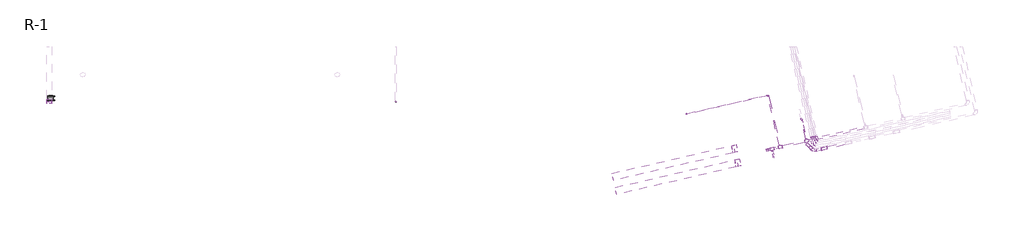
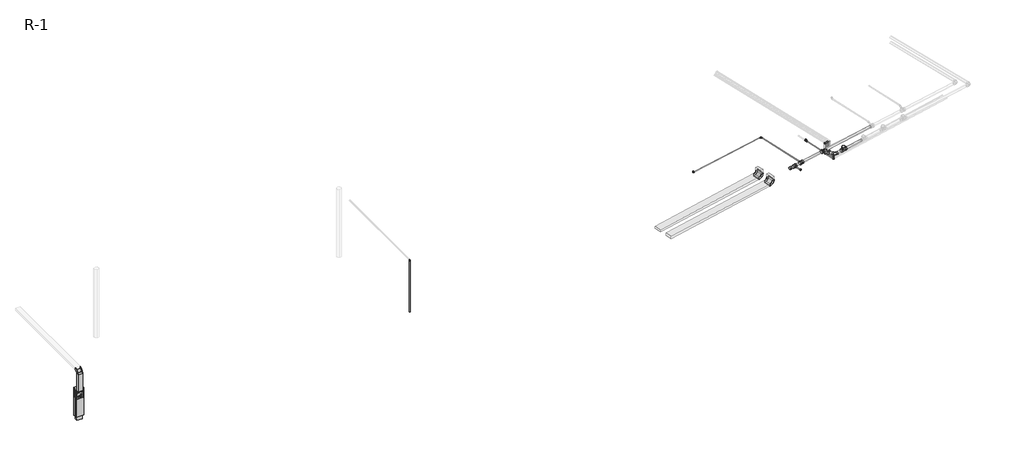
# One storey, part 1 of 4: 23 pipe fittings, 20 pipe segments, 5 cable carrier segments, 3 cable carrier fittings, 1 proxy.
"""IFC4 building model written with IfcOpenShell, lengths in millimetres."""

from ifc_helpers import new_model, si_unit, point, frame, frame_2d, origin, place, context, project, spatial, polyline, circle_curve, trimmed, segment, composite_curve, outline, extrude, transform, mapped, element, save
from components import electrical_equipment_2516d8a8, electrical_equipment_7e406d96, standaard_3adf7549, standaard_22adcec4, coude_ff_pvc_u_standard_6f87615a, coude_ff_pvc_u_standard_6033082a, coude_ff_pvc_u_standard_c64fbb7e, coude_ff_pvc_u_standard_71dba424, coude_ff_pvc_u_standard_f58f643d, standard_6e5039bf, standard_92f9c62b, standard_7b1e645a, standard_76decb9e, standard_230664cc, standard_f91cfe7f, standard_00a71b56

model = new_model("IFC4")

# Units and contexts
model_context = context("Model", 3, world=origin())
ifc_project = project(units=[si_unit("LENGTHUNIT", "METRE", prefix="MILLI")], contexts=[model_context])

# Site, building, storey
site = spatial("IfcSite", under=ifc_project)
building = spatial("IfcBuilding", under=site)
storey = spatial("IfcBuildingStorey", under=building, Name="R-1", Elevation=-2900.0)

# Proxy
placement = place(None, origin())
electrical_equipment_shape = electrical_equipment_2516d8a8(model_context)
electrical_equipment_2_shape = electrical_equipment_7e406d96(model_context)
element("IfcBuildingElementProxy", 1, Name="AI_Eqpmt elec_Borne véhicule électrique : Borne simple", ObjectType="AI_Eqpmt elec_Borne véhicule électrique : Borne simple", at=placement, inside=storey, context=model_context, shape_type="MappedRepresentation", body=[
    mapped(electrical_equipment_shape, transform((7567.2654949, -154.3953225, -2900.0), x_axis=(1.0, 0.0, 0.0), y_axis=(0.0, 1.0, 0.0), z_axis=(0.0, 0.0, 1.0))),
    mapped(electrical_equipment_2_shape, transform((7567.2654949, -154.3953225, -2900.0), x_axis=(1.0, 0.0, 0.0), y_axis=(0.0, 1.0, 0.0), z_axis=(0.0, 0.0, 1.0))),
])

# Cable carrier fittings
standaard_shape = standaard_3adf7549(model_context)
element("IfcCableCarrierFitting", 2, ObjectType="AI_Raccord cdc_Coude desencdant : standaard", at=placement, inside=storey, context=model_context, shape_type="MappedRepresentation", body=[
    mapped(standaard_shape, transform((7512.0715876, -330.5886718, -550.0), x_axis=(0.0, 0.0, 1.0), y_axis=(0.0, 1.0, 0.0), z_axis=(-1.0, 0.0, 0.0))),
])
standaard_2_shape = standaard_22adcec4(model_context)
element("IfcCableCarrierFitting", 3, ObjectType="AI_Raccord cdc_Coude montant : standaard", at=placement, inside=storey, context=model_context, shape_type="MappedRepresentation", body=[
    mapped(standaard_2_shape, transform((35910.9233173, -2805.8989841, -382.2402782), x_axis=(0.9743700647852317, 0.22495105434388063, 0.0), y_axis=(0.0, 0.0, 1.0000000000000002), z_axis=(0.22495105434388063, -0.9743700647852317, 0.0))),
])
element("IfcCableCarrierFitting", 4, ObjectType="AI_Raccord cdc_Coude montant : standaard", at=placement, inside=storey, context=model_context, shape_type="MappedRepresentation", body=[
    mapped(standaard_2_shape, transform((35777.0324498, -2225.9539216, -382.2402782), x_axis=(0.0, 0.0, -1.0), y_axis=(-0.9743700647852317, -0.22495105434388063, 0.0), z_axis=(-0.22495105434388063, 0.9743700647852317, 0.0))),
])

# Cable carrier segments
element("IfcCableCarrierSegment", 5, ObjectType="Par défaut", at=placement, inside=storey, context=model_context, shape_type="SweptSolid", body=[
    extrude(outline(polyline([(30877.9416386, -4121.7999764), (30810.4563223, -3829.488957), (35730.0507794, -2693.7110836), (35797.5360957, -2986.0221031), (30877.9416386, -4121.7999764)])), frame((0.0, 0.0, -432.2402782), z_axis=(0.0, 0.0, 1.0), x_axis=(1.0, 0.0, 0.0)), (0.0, 0.0, 1.0), 100.0),
])
element("IfcCableCarrierSegment", 6, ObjectType="Par défaut", at=placement, inside=storey, context=model_context, shape_type="SweptSolid", body=[
    extrude(outline(polyline([(35596.1599118, -2113.7660211), (35663.6452281, -2406.0770405), (30744.050771, -3541.8549139), (30676.5654547, -3249.5438944), (35596.1599118, -2113.7660211)])), frame((0.0, 0.0, -432.2402782), z_axis=(0.0, 0.0, 1.0), x_axis=(1.0, 0.0, 0.0)), (0.0, 0.0, 1.0), 100.0),
])
element("IfcCableCarrierSegment", 7, ObjectType="Par défaut", at=placement, inside=storey, context=model_context, shape_type="SweptSolid", body=[
    extrude(outline(polyline([(35993.3844787, -2940.8069411), (35895.9474722, -2963.3020466), (35828.4621559, -2670.9910271), (35925.8991624, -2648.4959217), (35993.3844787, -2940.8069411)])), frame((0.0, 0.0, -231.2402782), z_axis=(0.0, 0.0, 1.0), x_axis=(1.0, 0.0, 0.0)), (0.0, 0.0, 1.0), 141.2402782),
])
element("IfcCableCarrierSegment", 8, ObjectType="Par défaut", at=placement, inside=storey, context=model_context, shape_type="SweptSolid", body=[
    extrude(outline(polyline([(35859.4936111, -2360.8618786), (35762.0566047, -2383.356984), (35694.5712884, -2091.0459646), (35792.0082949, -2068.5508591), (35859.4936111, -2360.8618786)])), frame((0.0, 0.0, -231.2402782), z_axis=(0.0, 0.0, 1.0), x_axis=(1.0, 0.0, 0.0)), (0.0, 0.0, 1.0), 141.2402782),
])
element("IfcCableCarrierSegment", 9, ObjectType="Par défaut", at=placement, inside=storey, context=model_context, shape_type="SweptSolid", body=[
    extrude(outline(polyline([(7412.0715876, -280.5886718), (7612.0715876, -280.5886718), (7612.0715876, -380.5886718), (7412.0715876, -380.5886718), (7412.0715876, -280.5886718)])), frame((0.0, 0.0, -1482.2402782), z_axis=(0.0, 0.0, 1.0), x_axis=(1.0, 0.0, 0.0)), (0.0, 0.0, 1.0), 781.2402782),
])

# Pipe fittings
coude_ff_pvc_u_standard_shape = coude_ff_pvc_u_standard_6f87615a(model_context)
element("IfcPipeFitting", 10, ObjectType="Coude - FF - PVC-U : Standard", at=placement, inside=storey, context=model_context, shape_type="MappedRepresentation", body=[
    mapped(coude_ff_pvc_u_standard_shape, transform((38984.1269017, -2319.8384453, -483.9512557), x_axis=(0.7070272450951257, -0.70702724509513, -0.014998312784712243), y_axis=(0.7069941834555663, 0.7071705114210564, -0.008312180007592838), z_axis=(0.016483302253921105, -0.004726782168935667, 0.9998529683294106))),
])
coude_ff_pvc_u_standard_2_shape = coude_ff_pvc_u_standard_6033082a(model_context)
element("IfcPipeFitting", 11, ObjectType="Coude - FF - PVC-U : Standard", at=placement, inside=storey, context=model_context, shape_type="MappedRepresentation", body=[
    mapped(coude_ff_pvc_u_standard_2_shape, transform((38723.0979429, -2058.8094865, -478.4139953), x_axis=(0.0, 0.0, -1.0), y_axis=(0.7071067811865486, -0.7071067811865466, 0.0), z_axis=(-0.7071067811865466, -0.7071067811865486, 0.0))),
])
coude_ff_pvc_u_standard_3_shape = coude_ff_pvc_u_standard_c64fbb7e(model_context)
element("IfcPipeFitting", 12, ObjectType="Coude - FF - PVC-U : Standard", at=placement, inside=storey, context=model_context, shape_type="MappedRepresentation", body=[
    mapped(coude_ff_pvc_u_standard_3_shape, transform((37108.4442002, -29.6336291, -458.5869679), x_axis=(-0.22489611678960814, 0.9742673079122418, 0.014998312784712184), y_axis=(-0.9742167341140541, -0.22511528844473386, 0.014995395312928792), z_axis=(0.017985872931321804, -0.011239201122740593, 0.9997750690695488))),
])
coude_ff_pvc_u_standard_4_shape = coude_ff_pvc_u_standard_71dba424(model_context)
element("IfcPipeFitting", 13, ObjectType="Coude - FF - PVC-U : Standard", at=placement, inside=storey, context=model_context, shape_type="MappedRepresentation", body=[
    mapped(coude_ff_pvc_u_standard_4_shape, transform((33727.6141266, -810.1597511, -406.5405711), x_axis=(-0.9742604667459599, -0.22492575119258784, 0.014998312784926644), y_axis=(0.014613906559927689, 0.0033738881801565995, 0.999887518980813), z_axis=(-0.22495105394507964, 0.9743700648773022, -1.962298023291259e-09))),
])
coude_ff_pvc_u_standard_5_shape = coude_ff_pvc_u_standard_f58f643d(model_context)
element("IfcPipeFitting", 14, ObjectType="Coude - FF - PVC-U : Standard", at=placement, inside=storey, context=model_context, shape_type="MappedRepresentation", body=[
    mapped(coude_ff_pvc_u_standard_5_shape, transform((37345.2644101, -2596.8677366, -487.1501185), x_axis=(7.407819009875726e-05, 1.7102297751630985e-05, -0.9999999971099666), y_axis=(-0.2248110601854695, 0.9744023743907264, 1.0923084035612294e-08), z_axis=(0.9744023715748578, 0.22481105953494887, 7.602675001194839e-05))),
])
standard_shape = standard_6e5039bf(model_context)
element("IfcPipeFitting", 15, ObjectType="Coude - Générique1 : Standard", at=placement, inside=storey, context=model_context, shape_type="MappedRepresentation", body=[
    mapped(standard_shape, transform((21784.7623914, -295.1789703, -539.2767599), x_axis=(0.0, -1.0, 0.0), y_axis=(0.0, 0.0, -1.0), z_axis=(1.0, 0.0, 0.0))),
])
element("IfcPipeFitting", 16, ObjectType="Coude - Générique1 : Standard", at=placement, inside=storey, context=model_context, shape_type="MappedRepresentation", body=[
    mapped(standard_shape, transform((38972.9430808, -2220.1001443, -766.1829602), x_axis=(0.2251779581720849, -0.9743176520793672, 0.0), y_axis=(0.9743176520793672, 0.2251779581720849, 0.0), z_axis=(0.0, 0.0, 1.0))),
])
element("IfcPipeFitting", 17, ObjectType="Coude - Générique1 : Standard", at=placement, inside=storey, context=model_context, shape_type="MappedRepresentation", body=[
    mapped(standard_shape, transform((39034.0751545, -2120.7881489, -766.1829602), x_axis=(0.22502855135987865, -0.9743521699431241, 0.0), y_axis=(0.9743521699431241, 0.22502855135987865, 0.0), z_axis=(0.0, 0.0, 1.0))),
])
element("IfcPipeFitting", 18, ObjectType="Coude - Générique1 : Standard", at=placement, inside=storey, context=model_context, shape_type="MappedRepresentation", body=[
    mapped(standard_shape, transform((39092.8568962, -2027.3993233, -766.1829602), x_axis=(0.22510321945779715, -0.9743349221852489, 0.0), y_axis=(0.9743349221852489, 0.22510321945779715, 0.0), z_axis=(0.0, 0.0, 1.0))),
])
element("IfcPipeFitting", 19, ObjectType="Coude - Générique1 : Standard", at=placement, inside=storey, context=model_context, shape_type="MappedRepresentation", body=[
    mapped(standard_shape, transform((39154.396475, -1928.1997018, -766.1829602), x_axis=(0.22502855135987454, -0.974352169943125, 0.0), y_axis=(0.974352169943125, 0.22502855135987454, 0.0), z_axis=(0.0, 0.0, 1.0))),
])
element("IfcPipeFitting", 20, ObjectType="Coude - Générique1 : Standard", at=placement, inside=storey, context=model_context, shape_type="MappedRepresentation", body=[
    mapped(standard_shape, transform((38866.1068713, -1758.1096338, -766.1829602), x_axis=(-0.22495398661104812, 0.9743693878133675, 0.0), y_axis=(0.0, 0.0, 1.0), z_axis=(0.9743693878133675, 0.22495398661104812, 0.0))),
])
element("IfcPipeFitting", 21, ObjectType="Coude - Générique1 : Standard", at=placement, inside=storey, context=model_context, shape_type="MappedRepresentation", body=[
    mapped(standard_shape, transform((38866.1068713, -1758.1096338, -296.6995), x_axis=(0.0, 0.0, 1.0), y_axis=(-0.2250565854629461, 0.9743456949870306, 0.0), z_axis=(-0.9743456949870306, -0.2250565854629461, 0.0))),
])
element("IfcPipeFitting", 22, ObjectType="Coude - Générique1 : Standard", at=placement, inside=storey, context=model_context, shape_type="MappedRepresentation", body=[
    mapped(standard_shape, transform((38946.0309048, -1739.6574634, -766.1829602), x_axis=(-0.22495398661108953, 0.9743693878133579, 0.0), y_axis=(0.0, 0.0, 1.0), z_axis=(0.9743693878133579, 0.22495398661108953, 0.0))),
])
element("IfcPipeFitting", 23, ObjectType="Coude - Générique1 : Standard", at=placement, inside=storey, context=model_context, shape_type="MappedRepresentation", body=[
    mapped(standard_shape, transform((38946.0309048, -1739.6574634, -296.6995), x_axis=(0.0, 0.0, 1.0), y_axis=(-0.22494916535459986, 0.9743705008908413, 0.0), z_axis=(-0.9743705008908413, -0.22494916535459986, 0.0))),
])
element("IfcPipeFitting", 24, ObjectType="Coude - Générique1 : Standard", at=placement, inside=storey, context=model_context, shape_type="MappedRepresentation", body=[
    mapped(standard_shape, transform((39022.2694211, -1722.0561734, -766.1829602), x_axis=(-0.22495398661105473, 0.9743693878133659, 0.0), y_axis=(0.0, 0.0, 1.0), z_axis=(0.9743693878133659, 0.22495398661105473, 0.0))),
])
element("IfcPipeFitting", 25, ObjectType="Coude - Générique1 : Standard", at=placement, inside=storey, context=model_context, shape_type="MappedRepresentation", body=[
    mapped(standard_shape, transform((39022.2694211, -1722.0561734, -296.6995), x_axis=(0.0, 0.0, 1.0), y_axis=(-0.22500170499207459, 0.9743583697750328, 0.0), z_axis=(-0.9743583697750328, -0.22500170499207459, 0.0))),
])
element("IfcPipeFitting", 26, ObjectType="Coude - Générique1 : Standard", at=placement, inside=storey, context=model_context, shape_type="MappedRepresentation", body=[
    mapped(standard_shape, transform((39102.4868441, -1703.5362678, -766.1829602), x_axis=(-0.22495398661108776, 0.9743693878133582, 0.0), y_axis=(0.0, 0.0, 1.0), z_axis=(0.9743693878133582, 0.22495398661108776, 0.0))),
])
standard_2_shape = standard_92f9c62b(model_context)
element("IfcPipeFitting", 27, ObjectType="Chapeau - Générique : Standard", at=placement, inside=storey, context=model_context, shape_type="MappedRepresentation", body=[
    mapped(standard_2_shape, transform((37107.1915096, -2283.5088708, -483.9028289), x_axis=(-0.9742927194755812, -0.22478600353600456, 0.014998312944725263), y_axis=(0.2248112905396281, -0.9744023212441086, 0.0), z_axis=(0.014614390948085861, 0.003371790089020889, 0.999887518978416))),
])
standard_3_shape = standard_7b1e645a(model_context)
element("IfcPipeFitting", 28, ObjectType="EG-RCAN Té sanitaire de réduction - PVC - Nom. 40 - DWV : Standard", at=placement, inside=storey, context=model_context, shape_type="MappedRepresentation", body=[
    mapped(standard_3_shape, transform((37602.3467709, -2169.2576247, -491.5253101), x_axis=(-0.9742598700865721, -0.2249283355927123, 0.014998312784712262), y_axis=(0.22470917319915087, -0.9743104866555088, -0.014995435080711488), z_axis=(0.017985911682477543, -0.01123919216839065, 0.9997750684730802))),
])
standard_4_shape = standard_76decb9e(model_context)
element("IfcPipeFitting", 29, ObjectType="EG-RCAN Té sanitaire de réduction - PVC - Nom. 40 - DWV : Standard", at=placement, inside=storey, context=model_context, shape_type="MappedRepresentation", body=[
    mapped(standard_4_shape, transform((37264.5889981, -2247.1945766, -486.3258141), x_axis=(-0.9742927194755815, -0.22478600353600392, 0.01499831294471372), y_axis=(-0.2247647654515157, 0.9744080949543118, 0.0031088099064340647), z_axis=(-0.01531329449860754, -0.00034220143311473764, -0.9998826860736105))),
])
standard_5_shape = standard_230664cc(model_context)
element("IfcPipeFitting", 30, ObjectType="EG-RCAN Té sanitaire de réduction - PVC - Nom. 40 - DWV : Standard", at=placement, inside=storey, context=model_context, shape_type="MappedRepresentation", body=[
    mapped(standard_5_shape, transform((38690.5062616, -1918.0331716, -508.2770587), x_axis=(-0.9742598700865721, -0.22492833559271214, 0.0149983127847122), y_axis=(0.22471184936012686, -0.9743121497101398, -0.014846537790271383), z_axis=(0.017952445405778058, -0.011094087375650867, 0.999777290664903))),
])
standard_6_shape = standard_f91cfe7f(model_context)
element("IfcPipeFitting", 31, ObjectType="EG-RCAN Té sanitaire de réduction - PVC - Nom. 40 - DWV : Standard", at=placement, inside=storey, context=model_context, shape_type="MappedRepresentation", body=[
    mapped(standard_6_shape, transform((39398.7323164, -2224.1325266, -490.3338795), x_axis=(-0.9742673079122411, -0.22489611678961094, 0.01499831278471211), y_axis=(-0.014709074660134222, -0.0029616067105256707, -0.9998874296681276), z_axis=(0.22491521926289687, -0.9743782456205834, -0.0004226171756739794))),
])
standard_7_shape = standard_00a71b56(model_context)
element("IfcPipeFitting", 32, ObjectType="EG-RCAN Té sanitaire de réduction - PVC - Nom. 40 - DWV : Standard", at=placement, inside=storey, context=model_context, shape_type="MappedRepresentation", body=[
    mapped(standard_7_shape, transform((38481.3005227, -1010.9453968, -494.4453408), x_axis=(-0.22471005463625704, 0.9743123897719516, 0.014857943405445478), y_axis=(-0.002994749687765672, 0.014557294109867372, -0.9998895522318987), z_axis=(-0.9744210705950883, -0.2247297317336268, -0.00035334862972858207))),
])

# Pipe segments
element("IfcPipeSegment", 33, ObjectType="PVC Pression HTA", at=placement, inside=storey, context=model_context, shape_type="SweptSolid", body=[
    extrude(outline(composite_curve([segment(trimmed(circle_curve(frame_2d((21784.7623914, -295.1789703)), 16.7005), [point((21801.4628914, -295.1789703))], [point((21784.7623914, -311.8794703))], False, "CARTESIAN"), True, "CONTINUOUS"), segment(trimmed(circle_curve(frame_2d((21784.7623914, -295.1789703)), 16.7005), [point((21784.7623914, -311.8794703))], [point((21768.0618914, -295.1789703))], False, "CARTESIAN"), True, "CONTINUOUS"), segment(trimmed(circle_curve(frame_2d((21784.7623914, -295.1789703)), 16.7005), [point((21768.0618914, -295.1789703))], [point((21784.7623914, -278.4784703))], False, "CARTESIAN"), True, "CONTINUOUS"), segment(trimmed(circle_curve(frame_2d((21784.7623914, -295.1789703)), 16.7005), [point((21784.7623914, -278.4784703))], [point((21801.4628914, -295.1789703))], False, "CARTESIAN"), True, "CONTINUOUS")], self_intersect=False)), frame((0.0, 0.0, -2900.0), z_axis=(0.0, 0.0, 1.0), x_axis=(1.0, 0.0, 0.0)), (0.0, 0.0, 1.0), 2335.7232401),
])
element("IfcPipeSegment", 34, ObjectType="Acier - Té", at=placement, inside=storey, context=model_context, shape_type="SweptSolid", body=[
    extrude(outline(composite_curve([segment(trimmed(circle_curve(frame_2d((0.0, -16.7005)), 16.7005), [point((-16.7005, -16.7005))], [point((0.0, 0.0))], False, "CARTESIAN"), True, "CONTINUOUS"), segment(trimmed(circle_curve(frame_2d((0.0, -16.7005)), 16.7005), [point((0.0, 0.0))], [point((16.7005, -16.7005))], False, "CARTESIAN"), True, "CONTINUOUS"), segment(trimmed(circle_curve(frame_2d((0.0, -16.7005)), 16.7005), [point((16.7005, -16.7005))], [point((0.0, -33.401))], False, "CARTESIAN"), True, "CONTINUOUS"), segment(trimmed(circle_curve(frame_2d((0.0, -16.7005)), 16.7005), [point((0.0, -33.401))], [point((-16.7005, -16.7005))], False, "CARTESIAN"), True, "CONTINUOUS")], self_intersect=False)), frame((38967.1531654, -2195.7832096, -782.8834602), z_axis=(-0.22495398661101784, 0.9743693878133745, 0.0), x_axis=(0.9743693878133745, 0.22495398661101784, 0.0)), (0.0, 0.0, 1.0), 424.1865008),
])
element("IfcPipeSegment", 35, ObjectType="Acier - Té", at=placement, inside=storey, context=model_context, shape_type="SweptSolid", body=[
    extrude(outline(composite_curve([segment(trimmed(circle_curve(frame_2d((0.0, 16.7005)), 16.7005), [point((16.7005, 16.7005))], [point((0.0, 0.0))], False, "CARTESIAN"), True, "CONTINUOUS"), segment(trimmed(circle_curve(frame_2d((0.0, 16.7005)), 16.7005), [point((0.0, 0.0))], [point((-16.7004999, 16.7005))], False, "CARTESIAN"), True, "CONTINUOUS"), segment(trimmed(circle_curve(frame_2d((0.0, 16.7005)), 16.7005), [point((-16.7004999, 16.7005))], [point((0.0, 33.401))], False, "CARTESIAN"), True, "CONTINUOUS"), segment(trimmed(circle_curve(frame_2d((0.0, 16.7005)), 16.7005), [point((0.0, 33.401))], [point((16.7005, 16.7005))], False, "CARTESIAN"), True, "CONTINUOUS")], self_intersect=False)), frame((39028.401564, -2096.4390883, -749.4824602), z_axis=(-0.22495398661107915, 0.9743693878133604, 0.0), x_axis=(0.9743693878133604, 0.22495398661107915, 0.0)), (0.0, 0.0, 1.0), 341.1667016),
])
element("IfcPipeSegment", 36, ObjectType="Acier - Té", at=placement, inside=storey, context=model_context, shape_type="SweptSolid", body=[
    extrude(outline(composite_curve([segment(trimmed(circle_curve(frame_2d((0.0, -16.7005)), 16.7005), [point((-16.7004999, -16.7005))], [point((0.0, 0.0))], False, "CARTESIAN"), True, "CONTINUOUS"), segment(trimmed(circle_curve(frame_2d((0.0, -16.7005)), 16.7005), [point((0.0, 0.0))], [point((16.7005, -16.7005))], False, "CARTESIAN"), True, "CONTINUOUS"), segment(trimmed(circle_curve(frame_2d((0.0, -16.7005)), 16.7005), [point((16.7005, -16.7005))], [point((0.0, -33.401))], False, "CARTESIAN"), True, "CONTINUOUS"), segment(trimmed(circle_curve(frame_2d((0.0, -16.7005)), 16.7005), [point((0.0, -33.401))], [point((-16.7004999, -16.7005))], False, "CARTESIAN"), True, "CONTINUOUS")], self_intersect=False)), frame((39087.1458171, -2003.0628596, -782.8834602), z_axis=(-0.22495398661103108, 0.9743693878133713, 0.0), x_axis=(0.9743693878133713, 0.22495398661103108, 0.0)), (0.0, 0.0, 1.0), 263.3985167),
])
element("IfcPipeSegment", 37, ObjectType="Acier - Té", at=placement, inside=storey, context=model_context, shape_type="SweptSolid", body=[
    extrude(outline(composite_curve([segment(trimmed(circle_curve(frame_2d((0.0, 16.7005)), 16.7005), [point((16.7005, 16.7005))], [point((0.0, 0.0))], False, "CARTESIAN"), True, "CONTINUOUS"), segment(trimmed(circle_curve(frame_2d((0.0, 16.7005)), 16.7005), [point((0.0, 0.0))], [point((-16.7005, 16.7005))], False, "CARTESIAN"), True, "CONTINUOUS"), segment(trimmed(circle_curve(frame_2d((0.0, 16.7005)), 16.7005), [point((-16.7005, 16.7005))], [point((0.0, 33.401))], False, "CARTESIAN"), True, "CONTINUOUS"), segment(trimmed(circle_curve(frame_2d((0.0, 16.7005)), 16.7005), [point((0.0, 33.401))], [point((16.7005, 16.7005))], False, "CARTESIAN"), True, "CONTINUOUS")], self_intersect=False)), frame((39148.7331489, -1903.848271, -749.4824602), z_axis=(-0.22495398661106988, 0.9743693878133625, 0.0), x_axis=(0.9743693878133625, 0.22495398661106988, 0.0)), (0.0, 0.0, 1.0), 180.5811746),
])
element("IfcPipeSegment", 38, ObjectType="Acier - Té", at=placement, inside=storey, context=model_context, shape_type="SweptSolid", body=[
    extrude(outline(composite_curve([segment(trimmed(circle_curve(frame_2d((38866.1068713, -1758.1096338)), 16.7005), [point((38849.4063713, -1758.1096338))], [point((38866.1068713, -1741.4091338))], False, "CARTESIAN"), True, "CONTINUOUS"), segment(trimmed(circle_curve(frame_2d((38866.1068713, -1758.1096338)), 16.7005), [point((38866.1068713, -1741.4091338))], [point((38882.8073713, -1758.1096338))], False, "CARTESIAN"), True, "CONTINUOUS"), segment(trimmed(circle_curve(frame_2d((38866.1068713, -1758.1096338)), 16.7005), [point((38882.8073713, -1758.1096338))], [point((38866.1068713, -1774.8101338))], False, "CARTESIAN"), True, "CONTINUOUS"), segment(trimmed(circle_curve(frame_2d((38866.1068713, -1758.1096338)), 16.7005), [point((38866.1068713, -1774.8101338))], [point((38849.4063713, -1758.1096338))], False, "CARTESIAN"), True, "CONTINUOUS")], self_intersect=False)), frame((0.0, 0.0, -741.1829602), z_axis=(0.0, 0.0, 1.0), x_axis=(1.0, 0.0, 0.0)), (0.0, 0.0, 1.0), 419.4834602),
])
element("IfcPipeSegment", 39, ObjectType="Acier - Té", at=placement, inside=storey, context=model_context, shape_type="SweptSolid", body=[
    extrude(outline(composite_curve([segment(trimmed(circle_curve(frame_2d((38946.0309048, -1739.6574634)), 16.7005), [point((38929.3304048, -1739.6574634))], [point((38946.0309048, -1722.9569634))], False, "CARTESIAN"), True, "CONTINUOUS"), segment(trimmed(circle_curve(frame_2d((38946.0309048, -1739.6574634)), 16.7005), [point((38946.0309048, -1722.9569634))], [point((38962.7314048, -1739.6574634))], False, "CARTESIAN"), True, "CONTINUOUS"), segment(trimmed(circle_curve(frame_2d((38946.0309048, -1739.6574634)), 16.7005), [point((38962.7314048, -1739.6574634))], [point((38946.0309048, -1756.3579634))], False, "CARTESIAN"), True, "CONTINUOUS"), segment(trimmed(circle_curve(frame_2d((38946.0309048, -1739.6574634)), 16.7005), [point((38946.0309048, -1756.3579634))], [point((38929.3304048, -1739.6574634))], False, "CARTESIAN"), True, "CONTINUOUS")], self_intersect=False)), frame((0.0, 0.0, -741.1829602), z_axis=(0.0, 0.0, 1.0), x_axis=(1.0, 0.0, 0.0)), (0.0, 0.0, 1.0), 419.4834602),
])
element("IfcPipeSegment", 40, ObjectType="Acier - Té", at=placement, inside=storey, context=model_context, shape_type="SweptSolid", body=[
    extrude(outline(composite_curve([segment(trimmed(circle_curve(frame_2d((39022.2694211, -1722.0561734)), 16.7005), [point((39005.5689211, -1722.0561734))], [point((39022.2694211, -1705.3556734))], False, "CARTESIAN"), True, "CONTINUOUS"), segment(trimmed(circle_curve(frame_2d((39022.2694211, -1722.0561734)), 16.7005), [point((39022.2694211, -1705.3556734))], [point((39038.9699211, -1722.0561734))], False, "CARTESIAN"), True, "CONTINUOUS"), segment(trimmed(circle_curve(frame_2d((39022.2694211, -1722.0561734)), 16.7005), [point((39038.9699211, -1722.0561734))], [point((39022.2694211, -1738.7566734))], False, "CARTESIAN"), True, "CONTINUOUS"), segment(trimmed(circle_curve(frame_2d((39022.2694211, -1722.0561734)), 16.7005), [point((39022.2694211, -1738.7566734))], [point((39005.5689211, -1722.0561734))], False, "CARTESIAN"), True, "CONTINUOUS")], self_intersect=False)), frame((0.0, 0.0, -741.1829602), z_axis=(0.0, 0.0, 1.0), x_axis=(1.0, 0.0, 0.0)), (0.0, 0.0, 1.0), 419.4834602),
])
element("IfcPipeSegment", 41, ObjectType="Acier - Té", at=placement, inside=storey, context=model_context, shape_type="SweptSolid", body=[
    extrude(outline(composite_curve([segment(trimmed(circle_curve(frame_2d((39102.4868441, -1703.5362678)), 16.7005), [point((39085.7863441, -1703.5362678))], [point((39102.4868441, -1686.8357678))], False, "CARTESIAN"), True, "CONTINUOUS"), segment(trimmed(circle_curve(frame_2d((39102.4868441, -1703.5362678)), 16.7005), [point((39102.4868441, -1686.8357678))], [point((39119.1873441, -1703.5362678))], False, "CARTESIAN"), True, "CONTINUOUS"), segment(trimmed(circle_curve(frame_2d((39102.4868441, -1703.5362678)), 16.7005), [point((39119.1873441, -1703.5362678))], [point((39102.4868441, -1720.2367678))], False, "CARTESIAN"), True, "CONTINUOUS"), segment(trimmed(circle_curve(frame_2d((39102.4868441, -1703.5362678)), 16.7005), [point((39102.4868441, -1720.2367678))], [point((39085.7863441, -1703.5362678))], False, "CARTESIAN"), True, "CONTINUOUS")], self_intersect=False)), frame((0.0, 0.0, -741.1829602), z_axis=(0.0, 0.0, 1.0), x_axis=(1.0, 0.0, 0.0)), (0.0, 0.0, 1.0), 419.4834602),
])
element("IfcPipeSegment", 42, ObjectType="PVC", at=placement, inside=storey, context=model_context, shape_type="SweptSolid", body=[
    extrude(outline(composite_curve([segment(trimmed(circle_curve(frame_2d((0.0, -50.0)), 50.0), [point((-49.9943771, -50.7498313))], [point((-0.7498312, -0.0056228))], False, "CARTESIAN"), True, "CONTINUOUS"), segment(trimmed(circle_curve(frame_2d((0.0, -50.0)), 50.0), [point((-0.7498312, -0.0056228))], [point((49.9943773, -49.2501687))], False, "CARTESIAN"), True, "CONTINUOUS"), segment(trimmed(circle_curve(frame_2d((0.0, -50.0)), 50.0), [point((49.9943773, -49.2501687))], [point((0.7498314, -99.9943773))], False, "CARTESIAN"), True, "CONTINUOUS"), segment(trimmed(circle_curve(frame_2d((0.0, -50.0)), 50.0), [point((0.7498314, -99.9943773))], [point((-49.9943771, -50.7498313))], False, "CARTESIAN"), True, "CONTINUOUS")], self_intersect=False)), frame((38906.3539047, -2241.0050268, -532.2901951), z_axis=(-0.7070272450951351, 0.7070272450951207, 0.014998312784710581), x_axis=(0.7071863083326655, 0.7068682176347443, 0.01499493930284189)), (0.0, 0.0, 1.0), 125.1922209),
])
element("IfcPipeSegment", 43, ObjectType="PVC", at=placement, inside=storey, context=model_context, shape_type="SweptSolid", body=[
    extrude(outline(composite_curve([segment(trimmed(circle_curve(frame_2d((0.0, 16.0)), 16.0), [point((15.9999986, 16.0065207))], [point((0.0065207, 1.4e-06))], False, "CARTESIAN"), True, "CONTINUOUS"), segment(trimmed(circle_curve(frame_2d((0.0, 16.0)), 16.0), [point((0.0065207, 1.4e-06))], [point((-15.9999987, 15.9934793))], False, "CARTESIAN"), True, "CONTINUOUS"), segment(trimmed(circle_curve(frame_2d((0.0, 16.0)), 16.0), [point((-15.9999987, 15.9934793))], [point((-0.0065207, 31.9999987))], False, "CARTESIAN"), True, "CONTINUOUS"), segment(trimmed(circle_curve(frame_2d((0.0, 16.0)), 16.0), [point((-0.0065207, 31.9999987))], [point((15.9999986, 16.0065207))], False, "CARTESIAN"), True, "CONTINUOUS")], self_intersect=False)), frame((37334.4735203, -2550.1256566, -471.0008887), z_axis=(-0.22481042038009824, 0.9744009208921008, 0.0017664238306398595), x_axis=(0.974402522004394, 0.22481005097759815, 0.00040754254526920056)), (0.0, 0.0, 1.0), 217.0921375),
])
element("IfcPipeSegment", 44, ObjectType="PVC", at=placement, inside=storey, context=model_context, shape_type="SweptSolid", body=[
    extrude(outline(composite_curve([segment(trimmed(circle_curve(frame_2d((0.0, 50.0)), 50.0), [point((-49.8948246, 53.2413696))], [point((3.2413696, 99.8948246))], False, "CARTESIAN"), True, "CONTINUOUS"), segment(trimmed(circle_curve(frame_2d((0.0, 50.0)), 50.0), [point((3.2413696, 99.8948246))], [point((49.8948247, 46.7586304))], False, "CARTESIAN"), True, "CONTINUOUS"), segment(trimmed(circle_curve(frame_2d((0.0, 50.0)), 50.0), [point((49.8948247, 46.7586304))], [point((-3.2413696, 0.1051753))], False, "CARTESIAN"), True, "CONTINUOUS"), segment(trimmed(circle_curve(frame_2d((0.0, 50.0)), 50.0), [point((-3.2413696, 0.1051753))], [point((-49.8948246, 53.2413696))], False, "CARTESIAN"), True, "CONTINUOUS")], self_intersect=False)), frame((38622.5838202, -1937.0411254, -557.1206342), z_axis=(-0.9742598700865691, -0.22492833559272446, 0.014998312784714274), x_axis=(0.22542782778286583, -0.9721011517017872, 0.06482009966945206)), (0.0, 0.0, 1.0), 960.2819987),
])
element("IfcPipeSegment", 45, ObjectType="PVC", at=placement, inside=storey, context=model_context, shape_type="SweptSolid", body=[
    extrude(outline(composite_curve([segment(trimmed(circle_curve(frame_2d((0.0, 16.0000001)), 16.0), [point((15.9999041, 16.0553942))], [point((0.0553941, 9.6e-05))], False, "CARTESIAN"), True, "CONTINUOUS"), segment(trimmed(circle_curve(frame_2d((0.0, 16.0000001)), 16.0), [point((0.0553941, 9.6e-05))], [point((-15.9999041, 15.944606))], False, "CARTESIAN"), True, "CONTINUOUS"), segment(trimmed(circle_curve(frame_2d((0.0, 16.0000001)), 16.0), [point((-15.9999041, 15.944606))], [point((-0.0553942, 31.9999042))], False, "CARTESIAN"), True, "CONTINUOUS"), segment(trimmed(circle_curve(frame_2d((0.0, 16.0000001)), 16.0), [point((-0.0553942, 31.9999042))], [point((15.9999041, 16.0553942))], False, "CARTESIAN"), True, "CONTINUOUS")], self_intersect=False)), frame((37581.2587189, -2078.1488403, -474.1208443), z_axis=(-0.22489611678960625, 0.9742673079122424, 0.014998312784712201), x_axis=(0.9743827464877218, 0.22486947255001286, 0.0034617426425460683)), (0.0, 0.0, 1.0), 2054.3685312),
])
element("IfcPipeSegment", 46, ObjectType="PVC", at=placement, inside=storey, context=model_context, shape_type="SweptSolid", body=[
    extrude(outline(composite_curve([segment(trimmed(circle_curve(frame_2d((0.0, -15.9999999)), 16.0), [point((15.9663431, -17.0372507))], [point((-1.0372508, -31.966343))], False, "CARTESIAN"), True, "CONTINUOUS"), segment(trimmed(circle_curve(frame_2d((0.0, -15.9999999)), 16.0), [point((-1.0372508, -31.966343))], [point((-15.9663431, -14.9627492))], False, "CARTESIAN"), True, "CONTINUOUS"), segment(trimmed(circle_curve(frame_2d((0.0, -15.9999999)), 16.0), [point((-15.9663431, -14.9627492))], [point((1.0372508, -0.0336569))], False, "CARTESIAN"), True, "CONTINUOUS"), segment(trimmed(circle_curve(frame_2d((0.0, -15.9999999)), 16.0), [point((1.0372508, -0.0336569))], [point((15.9663431, -17.0372507))], False, "CARTESIAN"), True, "CONTINUOUS")], self_intersect=False)), frame((37061.6796978, -39.3655304, -441.9025018), z_axis=(-0.9742604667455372, -0.2249257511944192, 0.014998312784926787), x_axis=(0.22542524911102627, -0.972101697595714, 0.06482088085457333)), (0.0, 0.0, 1.0), 3374.1501179),
])
element("IfcPipeSegment", 47, ObjectType="PVC", at=placement, inside=storey, context=model_context, shape_type="SweptSolid", body=[
    extrude(outline(composite_curve([segment(trimmed(circle_curve(frame_2d((0.0, 50.0)), 50.0), [point((-49.8946847, 53.2435223))], [point((3.2435223, 99.8946848))], False, "CARTESIAN"), True, "CONTINUOUS"), segment(trimmed(circle_curve(frame_2d((0.0, 50.0)), 50.0), [point((3.2435223, 99.8946848))], [point((49.8946847, 46.7564777))], False, "CARTESIAN"), True, "CONTINUOUS"), segment(trimmed(circle_curve(frame_2d((0.0, 50.0)), 50.0), [point((49.8946847, 46.7564777))], [point((-3.2435222, 0.1053153))], False, "CARTESIAN"), True, "CONTINUOUS"), segment(trimmed(circle_curve(frame_2d((0.0, 50.0)), 50.0), [point((-3.2435222, 0.1053153))], [point((-49.8946847, 53.2435223))], False, "CARTESIAN"), True, "CONTINUOUS")], self_intersect=False)), frame((37196.6677208, -2266.1939077, -535.1693029), z_axis=(-0.9742927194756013, -0.2247860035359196, 0.014998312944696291), x_axis=(0.22528581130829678, -0.9721312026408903, 0.06486314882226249)), (0.0, 0.0, 1.0), 91.8370932),
])
element("IfcPipeSegment", 48, ObjectType="PVC", at=placement, inside=storey, context=model_context, shape_type="SweptSolid", body=[
    extrude(outline(composite_curve([segment(trimmed(circle_curve(frame_2d((0.0, 50.0)), 50.0), [point((-49.8946847, 53.2435223))], [point((3.2435222, 99.8946848))], False, "CARTESIAN"), True, "CONTINUOUS"), segment(trimmed(circle_curve(frame_2d((0.0, 50.0)), 50.0), [point((3.2435222, 99.8946848))], [point((49.8946847, 46.7564777))], False, "CARTESIAN"), True, "CONTINUOUS"), segment(trimmed(circle_curve(frame_2d((0.0, 50.0)), 50.0), [point((49.8946847, 46.7564777))], [point((-3.2435223, 0.1053153))], False, "CARTESIAN"), True, "CONTINUOUS"), segment(trimmed(circle_curve(frame_2d((0.0, 50.0)), 50.0), [point((-3.2435223, 0.1053153))], [point((-49.8946847, 53.2435223))], False, "CARTESIAN"), True, "CONTINUOUS")], self_intersect=False)), frame((37534.4092285, -2188.2711621, -540.3685133), z_axis=(-0.9742927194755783, -0.22478600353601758, 0.014998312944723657), x_axis=(0.22528581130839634, -0.9721312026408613, 0.06486314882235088)), (0.0, 0.0, 1.0), 190.0296879),
])
element("IfcPipeSegment", 49, ObjectType="PVC", at=placement, inside=storey, context=model_context, shape_type="SweptSolid", body=[
    extrude(outline(composite_curve([segment(trimmed(circle_curve(frame_2d((0.0, 49.9999999)), 50.0), [point((-49.8948246, 53.2413695))], [point((3.2413696, 99.8948246))], False, "CARTESIAN"), True, "CONTINUOUS"), segment(trimmed(circle_curve(frame_2d((0.0, 49.9999999)), 50.0), [point((3.2413696, 99.8948246))], [point((49.8948247, 46.7586303))], False, "CARTESIAN"), True, "CONTINUOUS"), segment(trimmed(circle_curve(frame_2d((0.0, 49.9999999)), 50.0), [point((49.8948247, 46.7586303))], [point((-3.2413696, 0.1051753))], False, "CARTESIAN"), True, "CONTINUOUS"), segment(trimmed(circle_curve(frame_2d((0.0, 49.9999999)), 50.0), [point((-3.2413696, 0.1051753))], [point((-49.8948246, 53.2413695))], False, "CARTESIAN"), True, "CONTINUOUS")], self_intersect=False)), frame((41054.8028293, -1375.5123277, -594.5636025), z_axis=(-0.9742598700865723, -0.224928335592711, 0.014998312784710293), x_axis=(0.2254278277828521, -0.9721011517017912, 0.06482009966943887)), (0.0, 0.0, 1.0), 2339.8518237),
])
element("IfcPipeSegment", 50, ObjectType="PVC", at=placement, inside=storey, context=model_context, shape_type="SweptSolid", body=[
    extrude(outline(composite_curve([segment(trimmed(circle_curve(frame_2d((0.0, -50.0)), 50.0), [point((49.894793, -53.2418567))], [point((-3.2418566, -99.894793))], False, "CARTESIAN"), True, "CONTINUOUS"), segment(trimmed(circle_curve(frame_2d((0.0, -50.0)), 50.0), [point((-3.2418566, -99.894793))], [point((-49.8947929, -46.7581434))], False, "CARTESIAN"), True, "CONTINUOUS"), segment(trimmed(circle_curve(frame_2d((0.0, -50.0)), 50.0), [point((-49.8947929, -46.7581434))], [point((3.2418567, -0.105207))], False, "CARTESIAN"), True, "CONTINUOUS"), segment(trimmed(circle_curve(frame_2d((0.0, -50.0)), 50.0), [point((3.2418567, -0.105207))], [point((49.894793, -53.2418567))], False, "CARTESIAN"), True, "CONTINUOUS")], self_intersect=False)), frame((39291.8954628, -2245.4672274, -438.8000037), z_axis=(-0.9742673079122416, -0.22489611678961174, 0.014998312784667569), x_axis=(0.225395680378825, -0.9721079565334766, 0.06482983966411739)), (0.0, 0.0, 1.0), 205.897453),
])
element("IfcPipeSegment", 51, ObjectType="PVC", at=placement, inside=storey, context=model_context, shape_type="SweptSolid", body=[
    extrude(outline(composite_curve([segment(trimmed(circle_curve(frame_2d((1e-07, -50.0000001)), 50.0), [point((49.894793, -53.2418567))], [point((-3.2418565, -99.894793))], False, "CARTESIAN"), True, "CONTINUOUS"), segment(trimmed(circle_curve(frame_2d((1e-07, -50.0000001)), 50.0), [point((-3.2418565, -99.894793))], [point((-49.8947929, -46.7581434))], False, "CARTESIAN"), True, "CONTINUOUS"), segment(trimmed(circle_curve(frame_2d((1e-07, -50.0000001)), 50.0), [point((-49.8947929, -46.7581434))], [point((3.2418567, -0.105207))], False, "CARTESIAN"), True, "CONTINUOUS"), segment(trimmed(circle_curve(frame_2d((1e-07, -50.0000001)), 50.0), [point((3.2418567, -0.105207))], [point((49.894793, -53.2418567))], False, "CARTESIAN"), True, "CONTINUOUS")], self_intersect=False)), frame((40300.2854058, -2012.6943728, -454.3236158), z_axis=(-0.9742673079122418, -0.22489611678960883, 0.014998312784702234), x_axis=(0.22539568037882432, -0.9721079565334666, 0.06482983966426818)), (0.0, 0.0, 1.0), 787.4553216),
])
element("IfcPipeSegment", 52, ObjectType="PVC", at=placement, inside=storey, context=model_context, shape_type="SweptSolid", body=[
    extrude(outline(composite_curve([segment(trimmed(circle_curve(frame_2d((0.0, -16.0)), 16.0), [point((-15.999906, -16.0548277))], [point((-0.0548278, -9.39e-05))], False, "CARTESIAN"), True, "CONTINUOUS"), segment(trimmed(circle_curve(frame_2d((0.0, -16.0)), 16.0), [point((-0.0548278, -9.39e-05))], [point((15.999906, -15.9451722))], False, "CARTESIAN"), True, "CONTINUOUS"), segment(trimmed(circle_curve(frame_2d((0.0, -16.0)), 16.0), [point((15.999906, -15.9451722))], [point((0.0548278, -31.999906))], False, "CARTESIAN"), True, "CONTINUOUS"), segment(trimmed(circle_curve(frame_2d((0.0, -16.0)), 16.0), [point((0.0548278, -31.999906))], [point((-15.999906, -16.0548277))], False, "CARTESIAN"), True, "CONTINUOUS")], self_intersect=False)), frame((38669.4356526, -1826.429896, -522.8830714), z_axis=(-0.22471005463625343, 0.9743123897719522, 0.01485794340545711), x_axis=(0.9744256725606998, 0.22468393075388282, 0.00342635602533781)), (0.0, 0.0, 1.0), 780.970894),
])

save(model, "model.ifc")
